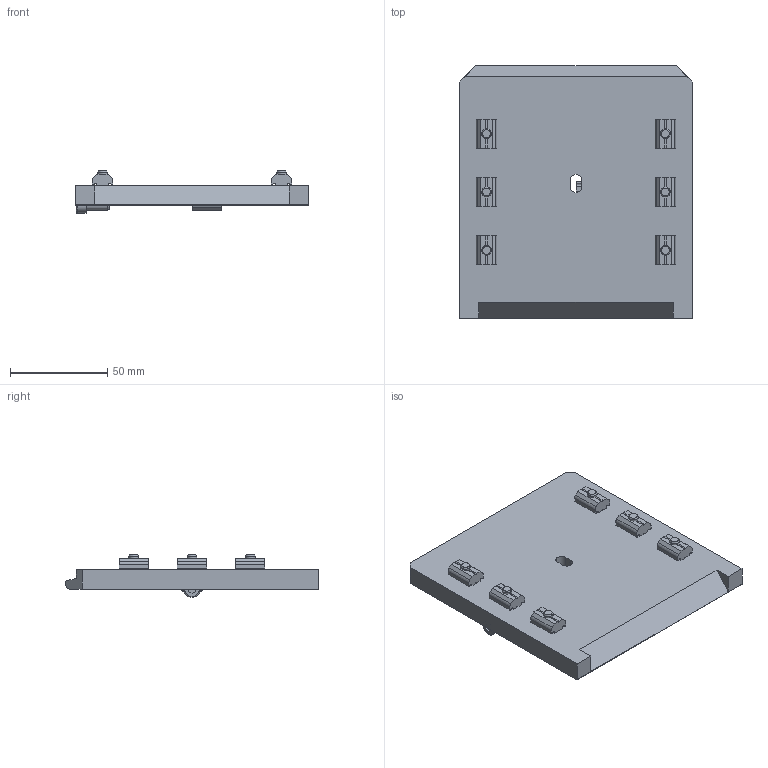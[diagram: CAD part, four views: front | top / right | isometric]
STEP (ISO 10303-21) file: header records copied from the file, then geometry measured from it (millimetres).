
FILE_DESCRIPTION( ( 'Unknown' ), '1' );
FILE_NAME( 'C:/Users/Fabrizio/Desktop/DISEGNI ACCESSORI FP SOLIDEDGE/CA.01.02.004.X.stp', 'Unknown', ( 'Unknown' ), ( 'Unknown' ), 'PSStep 13.0', 'Unknown', ' ' );
FILE_SCHEMA( ( 'AUTOMOTIVE_DESIGN { 1 0 10303 214 1 1 1 1 }' ) );
Length unit declared in the file: millimetre
Products named in the file (4): Assem1; 01.02.004; V-tcei M  5 x 12; CA.GWP.5U
Bounding box: 120 x 130 x 22.04 mm (x, y, z)
Volume: 297083.5 mm3; surface area: 80731.9 mm2
Topology: 16 solids, 16 shells, 353 faces, 904 edges, 595 vertices
Faces by surface type: plane 207, cylinder 123, torus 14, cone 7, bspline 2
Full cylindrical faces by diameter (mm): 4.134 x7, 5 x7, 5.2 x12, 8.5 x7, 10 x12
Entity records: 2913 total; most frequent: CARTESIAN_POINT 464, DIRECTION 421, ORIENTED_EDGE 356, EDGE_CURVE 178, AXIS2_PLACEMENT_3D 154, VERTEX_POINT 129, EDGE_LOOP 119, LINE 113
